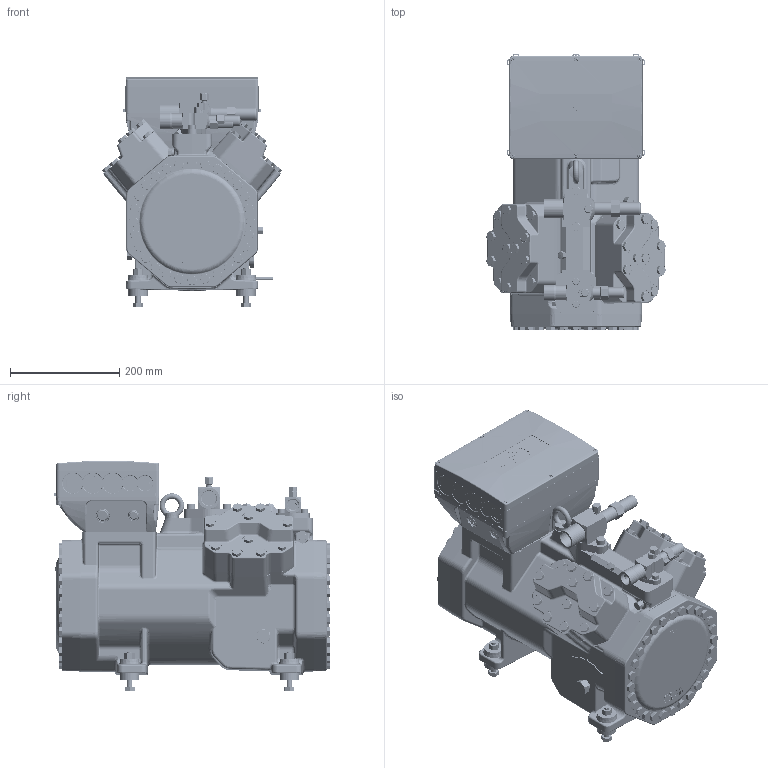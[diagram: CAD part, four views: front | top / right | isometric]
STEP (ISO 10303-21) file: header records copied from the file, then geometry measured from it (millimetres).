
FILE_DESCRIPTION(/* description */ (''),/* implementation_level */ '2;1');
FILE_NAME(/* name */ '4FME-4EME-4DME-STANDARD.stp',/* time_stamp */ '2023-11-07T07:52:19+01:00',/* author */ (''),/* organization */ (''),/* preprocessor_version */ 'ST-DEVELOPER v19.3',/* originating_system */ 'SIEMENS PLM Software NX2212.3001',/* authorisation */ '');
FILE_SCHEMA (('AUTOMOTIVE_DESIGN { 1 0 10303 214 3 1 1 1 }'));
Products named in the file (12): ELECTRICAL-TERMINAL-BOX-C3; CRANKCASE-HEATER-200-460V; TERMINAL-BOX-CE3-CM-RC-02; HOUSING-COVER-CKHE2-CKHE3; SHUT-OFF-VALVE-PS100-DN12; DAMPERELEMENT-COMPL-KIT-CKH3; SHUT-OFF-VALVE-PS100-DN25; SHUT-OFF-VALVE-PS100-DN20; CYLINDER-HEAD-CKH2-CKH3; BEARING-COVER-CKHE3; CME3-BASIC-BODY; 4FME-4EME-4DME-STANDARD
Assembly tree (15 placements, depth 2):
  4FME-4EME-4DME-STANDARD
    CME3-BASIC-BODY
    BEARING-COVER-CKHE3
    CYLINDER-HEAD-CKH2-CKH3  x2
    SHUT-OFF-VALVE-PS100-DN20
    SHUT-OFF-VALVE-PS100-DN25
    DAMPERELEMENT-COMPL-KIT-CKH3  x4
    SHUT-OFF-VALVE-PS100-DN12
    HOUSING-COVER-CKHE2-CKHE3
    TERMINAL-BOX-CE3-CM-RC-02
    CRANKCASE-HEATER-200-460V
    ELECTRICAL-TERMINAL-BOX-C3
Bounding box: 329.38 x 505.88 x 422.39 mm (x, y, z)
Volume: 34075414.1 mm3; surface area: 1399271 mm2
Topology: 15 solids, 45 shells, 10237 faces, 24823 edges, 14519 vertices
Faces by surface type: bspline 3226, plane 2724, cylinder 2021, cone 822, torus 712, sphere 556, extrusion 176
Full cylindrical faces by diameter (mm): 3 x4, 3.57 x6, 4 x11, 5 x4, 5.5 x2, 5.795 x4, 6 x3, 6.5 x2, 6.8 x2, 7 x6, 8 x5, 8.5 x11, 9 x3, 10 x24, 10.29 x1, 10.72 x3, 10.8 x1, 11 x6, 13 x5, 13.716 x2, 14.63 x30, 15 x1, 15.876 x10, 15.9 x28, 16 x2, 16.1 x1, 17 x1, 18 x1, 19 x3, 19.9 x2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
Entity records: 285612 total; most frequent: CARTESIAN_POINT 113844, ORIENTED_EDGE 37936, DIRECTION 30545, EDGE_CURVE 18968, AXIS2_PLACEMENT_3D 12387, VERTEX_POINT 11802, EDGE_LOOP 9312, ADVANCED_FACE 8256
